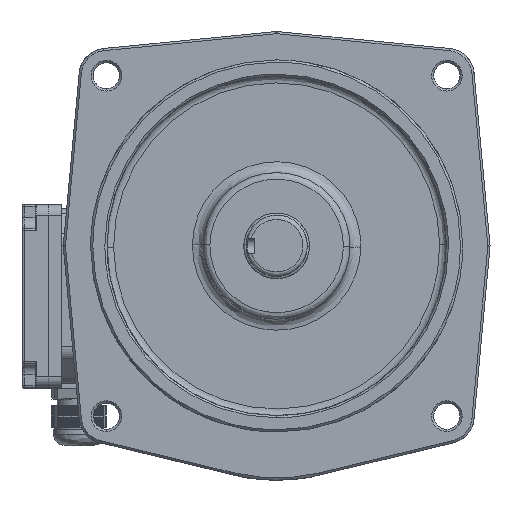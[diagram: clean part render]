
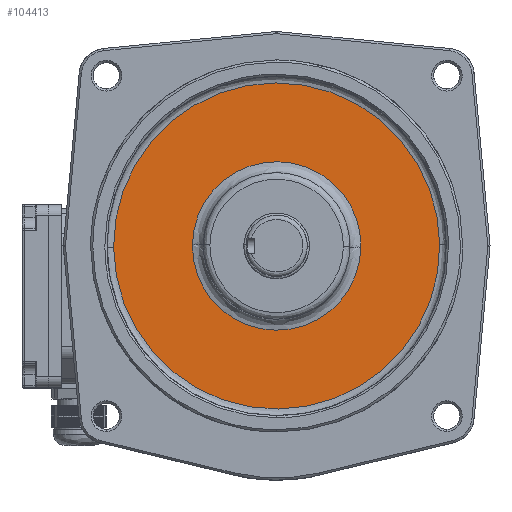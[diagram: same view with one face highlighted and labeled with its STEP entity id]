
A CAD part, top view. The second image highlights one B-rep face of the part: STEP entity #104413.
In plain terms, the highlighted planar face has unit normal (0, 0, 1) as drawn and (0, -1, 0) by its records, which use the part's own axes.
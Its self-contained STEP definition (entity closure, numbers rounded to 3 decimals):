
#196 = ORIENTED_EDGE ( 'NONE', *, *, #104683, .F. ) ;
#197 = ORIENTED_EDGE ( 'NONE', *, *, #106500, .F. ) ;
#198 = ORIENTED_EDGE ( 'NONE', *, *, #106534, .F. ) ;
#199 = ORIENTED_EDGE ( 'NONE', *, *, #104655, .F. ) ;
#14859 = CIRCLE ( 'NONE', #75141, 74.5 ) ;
#14879 = CIRCLE ( 'NONE', #75174, 38.5 ) ;
#15287 = CIRCLE ( 'NONE', #96089, 38.5 ) ;
#15317 = CIRCLE ( 'NONE', #96110, 74.5 ) ;
#27629 = VERTEX_POINT ( 'NONE', #31424 ) ;
#27630 = VERTEX_POINT ( 'NONE', #31425 ) ;
#27646 = VERTEX_POINT ( 'NONE', #31438 ) ;
#27647 = VERTEX_POINT ( 'NONE', #31439 ) ;
#31424 = CARTESIAN_POINT ( 'NONE',  ( -38.496, 1.5, 0.566 ) ) ;
#31425 = CARTESIAN_POINT ( 'NONE',  ( 38.496, 1.5, -0.566 ) ) ;
#31438 = CARTESIAN_POINT ( 'NONE',  ( -74.497, 1.5, -0.673 ) ) ;
#31439 = CARTESIAN_POINT ( 'NONE',  ( 74.497, 1.5, 0.673 ) ) ;
#38053 = PLANE ( 'NONE',  #102258 ) ;
#38054 = CARTESIAN_POINT ( 'NONE',  ( 0., 1.5, 0. ) ) ;
#38055 = DIRECTION ( 'NONE',  ( 0., -1., 0. ) ) ;
#38056 = DIRECTION ( 'NONE',  ( 0., 0., -1. ) ) ;
#44619 = EDGE_LOOP ( 'NONE', ( #198, #199 ) ) ;
#44786 = EDGE_LOOP ( 'NONE', ( #196, #197 ) ) ;
#75141 = AXIS2_PLACEMENT_3D ( 'NONE', #83452, #83453, #83454 ) ;
#75174 = AXIS2_PLACEMENT_3D ( 'NONE', #83640, #83641, #83642 ) ;
#83452 = CARTESIAN_POINT ( 'NONE',  ( 0., 1.5, 0. ) ) ;
#83453 = DIRECTION ( 'NONE',  ( 0., 1., 0. ) ) ;
#83454 = DIRECTION ( 'NONE',  ( -1., 0., 0. ) ) ;
#83640 = CARTESIAN_POINT ( 'NONE',  ( 0., 1.5, 0. ) ) ;
#83641 = DIRECTION ( 'NONE',  ( 0., -1., 0. ) ) ;
#83642 = DIRECTION ( 'NONE',  ( -1., 0., 0. ) ) ;
#95304 = CARTESIAN_POINT ( 'NONE',  ( 0., 1.5, 0. ) ) ;
#95305 = DIRECTION ( 'NONE',  ( 0., -1., 0. ) ) ;
#95306 = DIRECTION ( 'NONE',  ( -1., 0., 0. ) ) ;
#95349 = CARTESIAN_POINT ( 'NONE',  ( 0., 1.5, 0. ) ) ;
#95350 = DIRECTION ( 'NONE',  ( 0., 1., 0. ) ) ;
#95351 = DIRECTION ( 'NONE',  ( -1., 0., 0. ) ) ;
#96089 = AXIS2_PLACEMENT_3D ( 'NONE', #95304, #95305, #95306 ) ;
#96110 = AXIS2_PLACEMENT_3D ( 'NONE', #95349, #95350, #95351 ) ;
#102253 = FACE_BOUND ( 'NONE', #44786, .T. ) ;
#102254 = FACE_OUTER_BOUND ( 'NONE', #44619, .T. ) ;
#102258 = AXIS2_PLACEMENT_3D ( 'NONE', #38054, #38055, #38056 ) ;
#104413 = ADVANCED_FACE ( 'NONE', ( #102253, #102254 ), #38053, .T. ) ;
#104655 = EDGE_CURVE ( 'NONE', #27647, #27646, #14859, .T. ) ;
#104683 = EDGE_CURVE ( 'NONE', #27630, #27629, #14879, .T. ) ;
#106500 = EDGE_CURVE ( 'NONE', #27629, #27630, #15287, .T. ) ;
#106534 = EDGE_CURVE ( 'NONE', #27646, #27647, #15317, .T. ) ;
